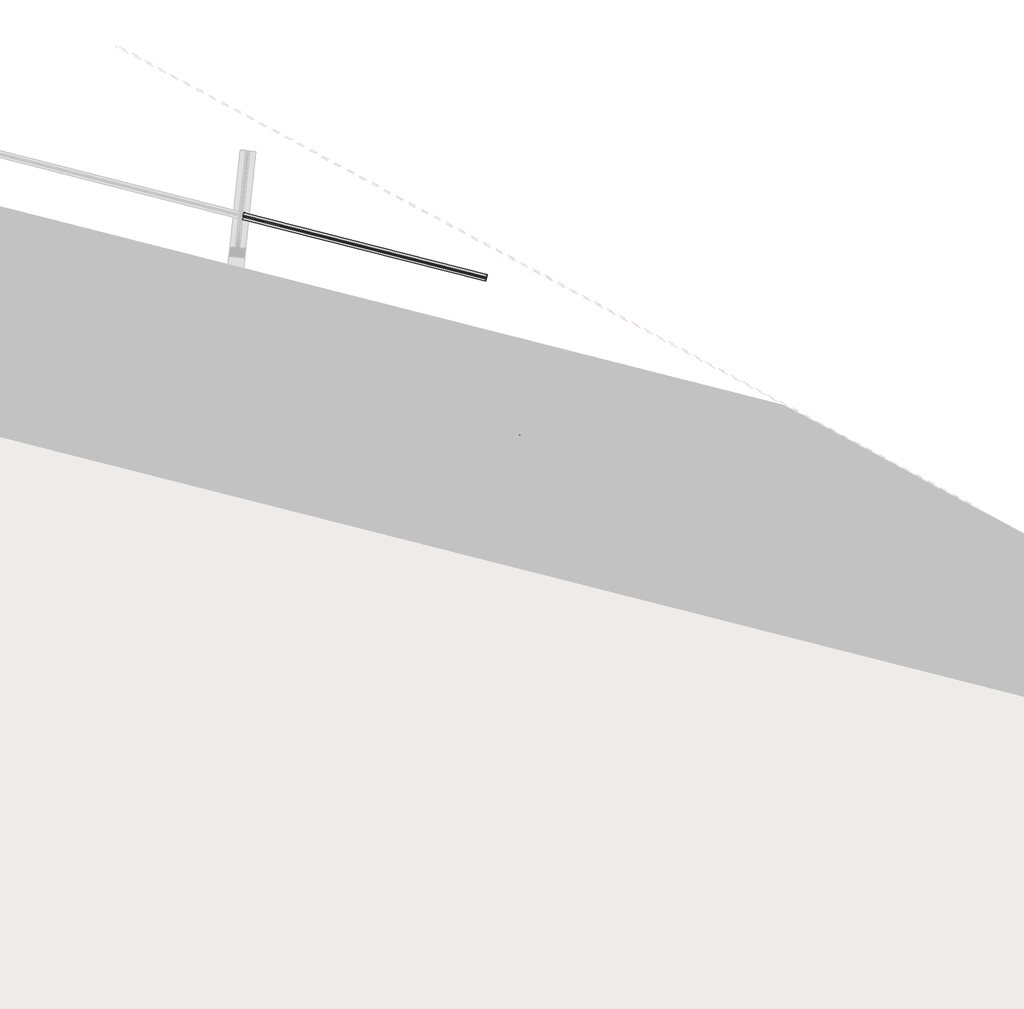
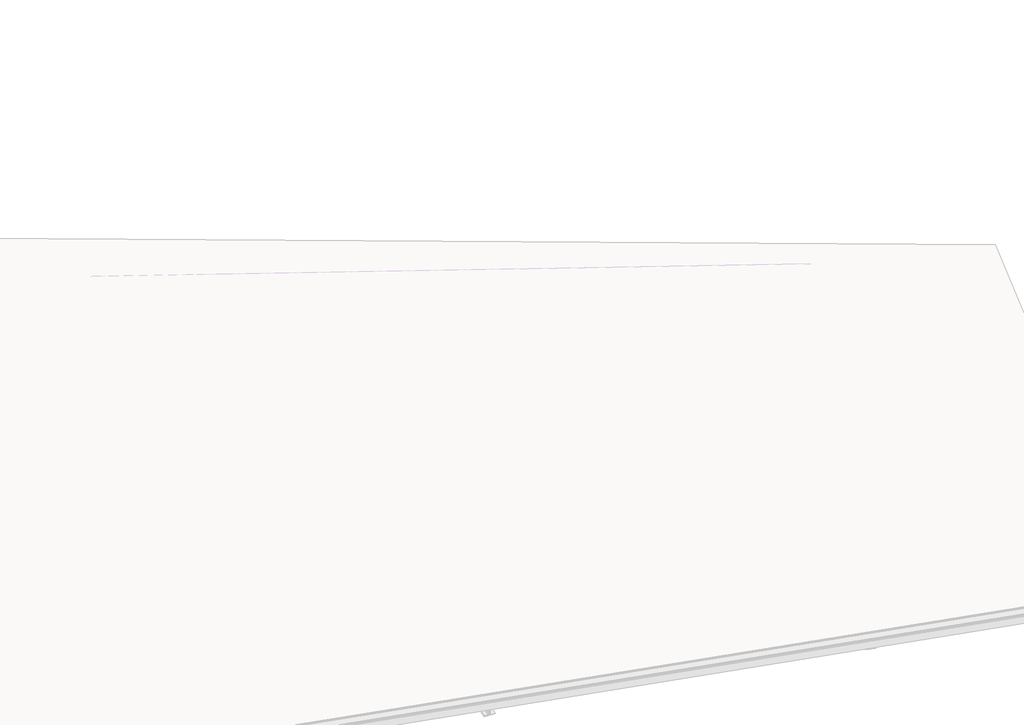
# One storey, part 9 of 10: 5 beams.
"""IFC4 building model written with IfcOpenShell, lengths in millimetres."""

from ifc_helpers import new_model, si_unit, frame, origin, place, context, project, spatial, polyline, circle_curve, ellipse_curve, element, save
from ifc_brep_helpers import plane_surface, cylinder_surface, revolved_surface, advanced_brep

model = new_model("IFC4")

# Units and contexts
model_context = context("Model", 3, world=origin())
ifc_project = project(units=[si_unit("LENGTHUNIT", "METRE", prefix="MILLI")], contexts=[model_context])

# Site, building, storey
site = spatial("IfcSite", under=ifc_project)
building = spatial("IfcBuilding", under=site)
storey = spatial("IfcBuildingStorey", under=building, Name="2 Toiture batiment", Elevation=872910.0)

# Beams
placement = place(None, origin())
element("IfcBeam", 1, ObjectType="IPE : IPE160", at=placement, inside=storey, context=model_context, shape_type="AdvancedBrep", body=[
    advanced_brep(
    [(43918.7678578, 6493.4036673, 874039.6959392), (43911.5700363, 6465.0220399, 874036.1008605), (43909.0508575, 6455.3137086, 874043.9368059), (43904.4824943, 6440.4803553, 874170.1863275), (43906.3552066, 6448.0896271, 874180.2158803), (43913.5530281, 6476.4712546, 874183.8109591), (43913.2872585, 6475.6083079, 874191.1556639), (43893.2797548, 6396.7170046, 874181.1625637), (43893.5455243, 6397.5799512, 874173.8178588), (43900.7433458, 6425.9615786, 874177.4129376), (43903.2625246, 6435.6699099, 874169.5769921), (43907.8308878, 6450.5032633, 874043.3274706), (43905.9581755, 6442.8939914, 874033.2979177), (43898.760354, 6414.512364, 874029.702839), (43899.0261236, 6415.3753107, 874022.3581341), (43919.0336273, 6494.266614, 874032.3512343), (40987.6092728, 7239.1074033, 874021.2458892), (40984.5164787, 7209.6814331, 874017.6766494), (40983.4570593, 7199.6017305, 874025.5217833), (40982.0741252, 7186.443991, 874132.1653926), (40983.0408762, 7186.0752408, 874133.1409565), (41070.5209819, 7164.0800881, 874131.636691), (41070.2524224, 7161.5249156, 874152.3463898), (41071.0801316, 7169.4000423, 874162.3693649), (41074.1729257, 7198.8260125, 874165.9386047), (41074.077667, 7197.9196868, 874173.2843829), (41065.4807479, 7116.1254647, 874163.3631061), (41065.5760065, 7117.0317903, 874156.0173279), (41068.6688006, 7146.4577604, 874159.5865678), (41069.72822, 7156.537463, 874151.7414339), (41069.9966213, 7159.0911301, 874131.043937), (40982.5165156, 7181.0862828, 874132.5482024), (40981.5497645, 7181.455033, 874131.5726385), (40982.9328569, 7194.614278, 874024.9168274), (40982.1051477, 7186.7391512, 874014.8938522), (40979.0123536, 7157.3131811, 874011.3246124), (40979.1076123, 7158.2195067, 874003.9788343), (40987.7045315, 7240.0137289, 874013.9001111)],
    [
        (0, 1),
        (1, 2, circle_curve(frame((43911.2468031, 6463.9725102, 874045.0336096), z_axis=(-0.9691114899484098, 0.24654758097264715, -0.006100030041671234), x_axis=(-0.24399394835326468, -0.9620890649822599, -0.12186707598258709)), 9.0)),
        (2, 3),
        (3, 4, circle_curve(frame((43906.6784399, 6449.1391569, 874171.2831311), z_axis=(-0.9691114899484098, 0.24654758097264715, -0.006100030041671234), x_axis=(-0.24399394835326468, -0.9620890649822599, -0.12186707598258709)), 9.0)),
        (4, 5),
        (5, 6),
        (6, 7),
        (7, 8),
        (8, 9),
        (9, 10, circle_curve(frame((43901.066579, 6427.0111084, 874168.4801884), z_axis=(-0.9691114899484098, 0.24654758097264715, -0.006100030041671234), x_axis=(-0.24399394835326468, -0.9620890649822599, -0.12186707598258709)), 9.0)),
        (10, 11),
        (11, 12, circle_curve(frame((43905.6349422, 6441.8444617, 874042.2306669), z_axis=(-0.9691114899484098, 0.24654758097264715, -0.006100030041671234), x_axis=(-0.24399394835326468, -0.9620890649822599, -0.12186707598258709)), 9.0)),
        (12, 13),
        (13, 14),
        (14, 15),
        (15, 0),
        (0, 16),
        (16, 17),
        (17, 1),
        (17, 18, ellipse_curve(frame((40984.4006236, 7208.5791452, 874026.6107039), z_axis=(-0.9945218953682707, 0.10452846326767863, 0.0), x_axis=(0.10443466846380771, 0.9936294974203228, -0.04235353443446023)), 9.0948241, 9.0)),
        (18, 2),
        (18, 19),
        (19, 20, ellipse_curve(frame((40983.0537456, 7186.1976847, 874132.1485475), z_axis=(0.24399394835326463, 0.9620890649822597, 0.12186707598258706), x_axis=(0.9683550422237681, -0.24850693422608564, 0.023082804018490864)), 1.0102676, 1.0)),
        (20, 21),
        (21, 22),
        (22, 3),
        (22, 23, ellipse_curve(frame((41071.1959867, 7170.5023302, 874153.4353104), z_axis=(-0.9945218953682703, 0.10452846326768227, 0.0), x_axis=(0.10443466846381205, 0.9936294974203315, -0.042353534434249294)), 9.0948241, 9.0)),
        (23, 4),
        (23, 24),
        (24, 5),
        (24, 25),
        (25, 6),
        (25, 26),
        (26, 7),
        (26, 27),
        (27, 8),
        (27, 28),
        (28, 9),
        (28, 29, ellipse_curve(frame((41068.7846557, 7147.5600484, 874150.6525133), z_axis=(-0.9945218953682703, 0.10452846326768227, 0.0), x_axis=(0.10443466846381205, 0.9936294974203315, -0.042353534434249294)), 9.0948241, 9.0)),
        (29, 10),
        (29, 30),
        (30, 31),
        (31, 32, ellipse_curve(frame((40982.529385, 7181.2087267, 874131.5557934), z_axis=(-0.24399394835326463, -0.9620890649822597, -0.12186707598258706), x_axis=(0.9683550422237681, -0.24850693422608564, 0.023082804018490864)), 1.0102676, 1.0)),
        (32, 33),
        (33, 11),
        (33, 34, ellipse_curve(frame((40981.9892926, 7185.6368633, 874023.8279067), z_axis=(-0.9945218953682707, 0.10452846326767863, 0.0), x_axis=(0.10443466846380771, 0.9936294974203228, -0.04235353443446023)), 9.0948241, 9.0)),
        (34, 12),
        (34, 35),
        (35, 13),
        (35, 36),
        (36, 14),
        (36, 37),
        (37, 15),
        (37, 16),
        (21, 30),
        (20, 31),
        (19, 32),
    ],
    [
        plane_surface(frame((43906.1566911, 6445.4918093, 874106.756899), z_axis=(0.9691114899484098, -0.24654758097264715, 0.006100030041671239), x_axis=(-0.035914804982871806, -0.11661441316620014, 0.9925276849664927))),
        plane_surface(frame((43918.7678578, 6493.4036673, 874039.6959392), z_axis=(-0.0359148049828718, -0.11661441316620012, 0.9925276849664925), x_axis=(-0.9691114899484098, 0.24654758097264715, -0.006100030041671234))),
        revolved_surface(polyline([(40980.9352433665, 7200.243295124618, 874025.5059097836), (43909.05085756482, 6455.31370861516, 874043.9368059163)]), (43911.2468031, 6463.9725102, 874045.0336096), (-0.96911148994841, 0.2465475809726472, -0.006100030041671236)),
        plane_surface(frame((43909.0508575, 6455.3137086, 874043.9368059), z_axis=(0.24399394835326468, 0.9620890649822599, 0.12186707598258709), x_axis=(-0.9691114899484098, 0.24654758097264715, -0.006100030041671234))),
        revolved_surface(polyline([(41067.730606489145, 7162.166480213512, 874152.3305162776), (43904.48249436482, 6440.48035531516, 874170.1863274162)]), (43906.6784399, 6449.1391569, 874171.2831311), (-0.96911148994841, 0.2465475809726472, -0.006100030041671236)),
        plane_surface(frame((43906.3552066, 6448.0896271, 874180.2158803), z_axis=(0.0359148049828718, 0.11661441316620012, -0.9925276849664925), x_axis=(-0.9691114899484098, 0.24654758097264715, -0.006100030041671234))),
        plane_surface(frame((43913.5530281, 6476.4712546, 874183.8109591), z_axis=(0.24399394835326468, 0.9620890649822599, 0.12186707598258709), x_axis=(-0.9691114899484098, 0.24654758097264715, -0.006100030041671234))),
        plane_surface(frame((43913.2872585, 6475.6083079, 874191.1556639), z_axis=(-0.0359148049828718, -0.11661441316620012, 0.9925276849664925), x_axis=(-0.9691114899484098, 0.24654758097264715, -0.006100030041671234))),
        plane_surface(frame((43893.2797548, 6396.7170046, 874181.1625637), z_axis=(-0.24399394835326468, -0.9620890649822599, -0.12186707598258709), x_axis=(-0.9691114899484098, 0.24654758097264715, -0.006100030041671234))),
        plane_surface(frame((43893.5455243, 6397.5799512, 874173.8178588), z_axis=(0.0359148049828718, 0.11661441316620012, -0.9925276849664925), x_axis=(-0.9691114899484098, 0.24654758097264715, -0.006100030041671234))),
        revolved_surface(polyline([(41065.31927547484, 7139.224198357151, 874149.5477191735), (43898.87063354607, 6418.35230679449, 874167.3833847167)]), (43901.066579, 6427.0111084, 874168.4801884), (-0.96911148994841, 0.2465475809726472, -0.006100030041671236)),
        plane_surface(frame((43903.2625246, 6435.6699099, 874169.5769921), z_axis=(-0.24399394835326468, -0.9620890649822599, -0.12186707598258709), x_axis=(-0.9691114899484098, 0.24654758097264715, -0.006100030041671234))),
        revolved_surface(polyline([(40978.52391237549, 7177.301013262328, 874022.7231126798), (43903.43899672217, 6433.185660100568, 874041.1338632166)]), (43905.6349422, 6441.8444617, 874042.2306669), (-0.96911148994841, 0.2465475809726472, -0.006100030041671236)),
        plane_surface(frame((43905.9581755, 6442.8939914, 874033.2979177), z_axis=(-0.0359148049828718, -0.11661441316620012, 0.9925276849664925), x_axis=(-0.9691114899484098, 0.24654758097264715, -0.006100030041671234))),
        plane_surface(frame((43898.760354, 6414.512364, 874029.702839), z_axis=(-0.24399394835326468, -0.9620890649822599, -0.12186707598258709), x_axis=(-0.9691114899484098, 0.24654758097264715, -0.006100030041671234))),
        plane_surface(frame((43899.0261236, 6415.3753107, 874022.3581341), z_axis=(0.0359148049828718, 0.11661441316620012, -0.9925276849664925), x_axis=(-0.9691114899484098, 0.24654758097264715, -0.006100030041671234))),
        plane_surface(frame((43919.0336273, 6494.266614, 874032.3512343), z_axis=(0.24399394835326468, 0.9620890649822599, 0.12186707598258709), x_axis=(-0.9691114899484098, 0.24654758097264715, -0.006100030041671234))),
        plane_surface(frame((41151.8197628, 7937.5863197, 874278.5192899), z_axis=(-0.9945218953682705, 0.1045284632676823, 0.0), x_axis=(-0.10380628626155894, -0.9876508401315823, -0.11734595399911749))),
        plane_surface(frame((41152.489486, 7943.9583101, 874224.296516), z_axis=(-0.012265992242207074, -0.11670312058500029, 0.9930910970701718), x_axis=(-0.10380628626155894, -0.9876508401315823, -0.11734595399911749))),
        cylinder_surface(frame((40481.918996, 2418.2190365, 873565.6497603), z_axis=(-0.10380628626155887, -0.9876508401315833, -0.11734595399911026), x_axis=(-0.012265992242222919, -0.11670312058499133, 0.9930910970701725)), 1.0),
        plane_surface(frame((41062.6964248, 7953.5139334, 874223.3034249), z_axis=(-0.994521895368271, 0.10452846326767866, 0.0), x_axis=(-0.10380628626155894, -0.9876508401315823, -0.11734595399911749))),
    ],
    [
        (0, [[1, 2, 3, 4, 5, 6, 7, 8, 9, 10, 11, 12, 13, 14, 15, 16]]),
        (1, [[-1, 17, 18, 19]]),
        (2, [[-2, -19, 20, 21]]),
        (3, [[-3, -21, 22, 23, 24, 25, 26]]),
        (4, [[-4, -26, 27, 28]]),
        (5, [[-5, -28, 29, 30]]),
        (6, [[-6, -30, 31, 32]]),
        (7, [[-7, -32, 33, 34]]),
        (8, [[-8, -34, 35, 36]]),
        (9, [[-9, -36, 37, 38]]),
        (10, [[-10, -38, 39, 40]]),
        (11, [[-11, -40, 41, 42, 43, 44, 45]]),
        (12, [[-12, -45, 46, 47]]),
        (13, [[-13, -47, 48, 49]]),
        (14, [[-14, -49, 50, 51]]),
        (15, [[-15, -51, 52, 53]]),
        (16, [[-16, -53, 54, -17]]),
        (17, [[55, -41, -39, -37, -35, -33, -31, -29, -27, -25]]),
        (18, [[-55, -24, 56, -42]]),
        (19, [[-56, -23, 57, -43]]),
        (20, [[-57, -22, -20, -18, -54, -52, -50, -48, -46, -44]]),
    ],
),
])
element("IfcBeam", 2, ObjectType="IPE : IPE160", at=placement, inside=storey, context=model_context, shape_type="AdvancedBrep", body=[
    advanced_brep(
    [(43667.3444822, 1166.2324166, 873399.0408142), (43674.568198, 1194.607456, 873402.6359598), (43676.5013583, 1202.2013494, 873412.6656993), (43672.6756744, 1187.1790546, 873538.9175698), (43670.2011437, 1177.4593647, 873546.753661), (43662.977428, 1149.0843253, 873543.1585154), (43662.7548646, 1148.2103868, 873550.5033569), (43682.8343457, 1227.0833775, 873560.4966431), (43683.0569091, 1227.9573161, 873553.1518016), (43675.8331933, 1199.5822767, 873549.5566559), (43673.900033, 1191.9883833, 873539.5269165), (43677.7257169, 1207.0106781, 873413.275046), (43680.2002476, 1216.730368, 873405.4389547), (43687.4239633, 1245.1054074, 873409.0341003), (43687.6465267, 1245.9793459, 873401.6892588), (43667.5670456, 1167.1063551, 873391.6959727), (47370.2316104, 223.5468485, 873399.0786368), (47377.4553606, 251.9218791, 873402.6737824), (47379.3886171, 259.515748, 873412.7035219), (47376.0540815, 246.4176277, 873522.7817933), (47297.5578579, 266.401193, 873522.7817815), (47297.0679446, 264.4768041, 873538.9545906), (47294.5934843, 254.7570775, 873546.7906796), (47287.3697389, 226.3820645, 873543.1955362), (47287.147246, 225.508108, 873550.5403777), (47307.2268229, 304.3810744, 873560.5336639), (47307.4493158, 305.2550309, 873553.1888224), (47300.2255656, 276.8800003, 873549.5936767), (47298.2923091, 269.2861313, 873539.5639373), (47298.7825088, 271.2116453, 873523.3816723), (47377.2787324, 251.2280801, 873523.381684), (47380.6129816, 264.3250752, 873413.3128686), (47383.0874414, 274.0448029, 873405.4767796), (47390.3111873, 302.4198148, 873409.0719229), (47390.5336802, 303.2937713, 873401.7270814), (47370.4541033, 224.420805, 873391.7337952)],
    [
        (0, 1),
        (1, 2, circle_curve(frame((43674.2975128, 1193.5445577, 873411.5688752), z_axis=(0.9690888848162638, -0.2467118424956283, 9.898612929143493e-06), x_axis=(0.24487172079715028, 0.9618657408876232, 0.12186934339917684)), 9.0)),
        (2, 3),
        (3, 4, circle_curve(frame((43670.4718289, 1178.5222629, 873537.8207457), z_axis=(0.9690888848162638, -0.2467118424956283, 9.898612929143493e-06), x_axis=(0.24487172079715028, 0.9618657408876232, 0.12186934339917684)), 9.0)),
        (4, 5),
        (5, 6),
        (6, 7),
        (7, 8),
        (8, 9),
        (9, 10, circle_curve(frame((43676.1038785, 1200.6451749, 873540.6237406), z_axis=(0.9690888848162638, -0.2467118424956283, 9.898612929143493e-06), x_axis=(0.24487172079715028, 0.9618657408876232, 0.12186934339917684)), 9.0)),
        (10, 11),
        (11, 12, circle_curve(frame((43679.9295624, 1215.6674698, 873414.3718701), z_axis=(0.9690888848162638, -0.2467118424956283, 9.898612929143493e-06), x_axis=(0.24487172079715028, 0.9618657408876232, 0.12186934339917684)), 9.0)),
        (12, 13),
        (13, 14),
        (14, 15),
        (15, 0),
        (0, 16),
        (16, 17),
        (17, 1),
        (17, 18, ellipse_curve(frame((47377.1847611, 250.858959, 873411.6066978), z_axis=(0.9690888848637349, -0.24671184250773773, 0.0), x_axis=(5.832291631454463e-10, 2.2936608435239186e-09, 1.0)), 9.0, 9.0)),
        (18, 2),
        (18, 19),
        (19, 20),
        (20, 21),
        (21, 3),
        (21, 22, ellipse_curve(frame((47294.8640886, 255.8200151, 873537.8577665), z_axis=(0.9690888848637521, -0.24671184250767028, 0.0), x_axis=(-1.1552423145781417e-09, -4.520025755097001e-09, 1.0)), 9.0, 9.0)),
        (22, 4),
        (22, 23),
        (23, 5),
        (23, 24),
        (24, 6),
        (24, 25),
        (25, 7),
        (25, 26),
        (26, 8),
        (26, 27),
        (27, 9),
        (27, 28, ellipse_curve(frame((47300.4961651, 277.9429203, 873540.6607614), z_axis=(0.9690888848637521, -0.24671184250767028, 0.0), x_axis=(-1.1552423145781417e-09, -4.520025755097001e-09, 1.0)), 9.0, 9.0)),
        (28, 10),
        (28, 29),
        (29, 30),
        (30, 31),
        (31, 11),
        (31, 32, ellipse_curve(frame((47382.8168376, 272.9818642, 873414.4096927), z_axis=(0.9690888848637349, -0.24671184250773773, 0.0), x_axis=(5.832291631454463e-10, 2.2936608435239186e-09, 1.0)), 9.0, 9.0)),
        (32, 12),
        (32, 33),
        (33, 13),
        (33, 34),
        (34, 14),
        (34, 35),
        (35, 15),
        (35, 16),
        (30, 19),
        (29, 20),
    ],
    [
        plane_surface(frame((43675.2006957, 1197.0948663, 873476.0963079), z_axis=(-0.9690888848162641, 0.24671184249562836, -9.898612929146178e-06), x_axis=(-0.030076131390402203, -0.11809980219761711, 0.9925461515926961))),
        plane_surface(frame((43667.3444822, 1166.2324166, 873399.0408142), z_axis=(-0.030076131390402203, -0.11809980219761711, 0.9925461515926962), x_axis=(0.9690888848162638, -0.2467118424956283, 9.898612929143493e-06))),
        revolved_surface(polyline([(47379.38869291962, 259.515728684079, 873412.7035218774), (43676.50135828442, 1202.2013493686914, 873412.6656992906)]), (43674.2975128, 1193.5445577, 873411.5688752), (0.969088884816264, -0.24671184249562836, 9.898612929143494e-06)),
        plane_surface(frame((43676.5013583, 1202.2013494, 873412.6656993), z_axis=(-0.24487172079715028, -0.9618657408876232, -0.12186934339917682), x_axis=(0.9690888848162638, -0.2467118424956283, 9.898612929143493e-06))),
        revolved_surface(polyline([(47297.06802042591, 264.476784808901, 873538.9545906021), (43672.675674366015, 1187.1790545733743, 873538.9175697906)]), (43670.4718289, 1178.5222629, 873537.8207457), (0.969088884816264, -0.24671184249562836, 9.898612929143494e-06)),
        plane_surface(frame((43670.2011437, 1177.4593647, 873546.753661), z_axis=(0.030076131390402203, 0.11809980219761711, -0.9925461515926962), x_axis=(0.9690888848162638, -0.2467118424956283, 9.898612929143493e-06))),
        plane_surface(frame((43662.977428, 1149.0843253, 873543.1585154), z_axis=(-0.24487172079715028, -0.9618657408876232, -0.12186934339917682), x_axis=(0.9690888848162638, -0.2467118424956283, 9.898612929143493e-06))),
        plane_surface(frame((43662.7548646, 1148.2103868, 873550.5033569), z_axis=(-0.030076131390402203, -0.11809980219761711, 0.9925461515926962), x_axis=(0.9690888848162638, -0.2467118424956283, 9.898612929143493e-06))),
        plane_surface(frame((43682.8343457, 1227.0833775, 873560.4966431), z_axis=(0.24487172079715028, 0.9618657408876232, 0.12186934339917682), x_axis=(0.9690888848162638, -0.2467118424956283, 9.898612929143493e-06))),
        plane_surface(frame((43683.0569091, 1227.9573161, 873553.1518016), z_axis=(0.030076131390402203, 0.11809980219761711, -0.9925461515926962), x_axis=(0.9690888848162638, -0.2467118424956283, 9.898612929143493e-06))),
        revolved_surface(polyline([(47302.70009691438, 286.5996899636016, 873541.7575855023), (43678.30772395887, 1209.3019665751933, 873541.7205646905)]), (43676.1038785, 1200.6451749, 873540.6237406), (0.969088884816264, -0.24671184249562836, 9.898612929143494e-06)),
        plane_surface(frame((43673.900033, 1191.9883833, 873539.5269165), z_axis=(0.24487172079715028, 0.9618657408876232, 0.12186934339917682), x_axis=(0.9690888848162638, -0.2467118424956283, 9.898612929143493e-06))),
        revolved_surface(polyline([(47385.020769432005, 281.63863393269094, 873415.5065167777), (43682.13340788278, 1224.3242614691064, 873415.4686941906)]), (43679.9295624, 1215.6674698, 873414.3718701), (0.969088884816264, -0.24671184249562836, 9.898612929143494e-06)),
        plane_surface(frame((43680.2002476, 1216.730368, 873405.4389547), z_axis=(-0.030076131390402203, -0.11809980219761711, 0.9925461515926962), x_axis=(0.9690888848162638, -0.2467118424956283, 9.898612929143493e-06))),
        plane_surface(frame((43687.4239633, 1245.1054074, 873409.0341003), z_axis=(0.24487172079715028, 0.9618657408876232, 0.12186934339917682), x_axis=(0.9690888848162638, -0.2467118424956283, 9.898612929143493e-06))),
        plane_surface(frame((43687.6465267, 1245.9793459, 873401.6892588), z_axis=(0.030076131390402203, 0.11809980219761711, -0.9925461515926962), x_axis=(0.9690888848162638, -0.2467118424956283, 9.898612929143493e-06))),
        plane_surface(frame((43667.5670456, 1167.1063551, 873391.6959727), z_axis=(-0.24487172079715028, -0.9618657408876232, -0.12186934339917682), x_axis=(0.9690888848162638, -0.2467118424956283, 9.898612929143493e-06))),
        plane_surface(frame((48353.9170133, 4087.4821201, 873705.0408267), z_axis=(0.9690888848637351, -0.24671184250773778, 0.0), x_axis=(-0.24492973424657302, -0.9620887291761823, -0.11997792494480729))),
        plane_surface(frame((48345.1968607, 4053.2291921, 873997.5128012), z_axis=(-0.02959997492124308, -0.11626927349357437, 0.992776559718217), x_axis=(-0.24492973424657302, -0.9620887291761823, -0.11997792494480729))),
        plane_surface(frame((48266.700661, 4073.2128513, 873997.5128012), z_axis=(0.9690888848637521, -0.24671184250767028, 0.0), x_axis=(-0.24492973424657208, -0.9620887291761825, -0.11997792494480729))),
    ],
    [
        (0, [[1, 2, 3, 4, 5, 6, 7, 8, 9, 10, 11, 12, 13, 14, 15, 16]]),
        (1, [[-1, 17, 18, 19]]),
        (2, [[-2, -19, 20, 21]]),
        (3, [[-3, -21, 22, 23, 24, 25]]),
        (4, [[-4, -25, 26, 27]]),
        (5, [[-5, -27, 28, 29]]),
        (6, [[-6, -29, 30, 31]]),
        (7, [[-7, -31, 32, 33]]),
        (8, [[-8, -33, 34, 35]]),
        (9, [[-9, -35, 36, 37]]),
        (10, [[-10, -37, 38, 39]]),
        (11, [[-11, -39, 40, 41, 42, 43]]),
        (12, [[-12, -43, 44, 45]]),
        (13, [[-13, -45, 46, 47]]),
        (14, [[-14, -47, 48, 49]]),
        (15, [[-15, -49, 50, 51]]),
        (16, [[-16, -51, 52, -17]]),
        (17, [[53, -22, -20, -18, -52, -50, -48, -46, -44, -42]]),
        (18, [[-53, -41, 54, -23]]),
        (19, [[-54, -40, -38, -36, -34, -32, -30, -28, -26, -24]]),
    ],
),
])
element("IfcBeam", 3, ObjectType="IPE : IPE160", at=placement, inside=storey, context=model_context, shape_type="AdvancedBrep", body=[
    advanced_brep(
    [(44091.7898285, 2833.039037, 873605.6408392), (44099.0123995, 2861.4143678, 873609.2359846), (44100.9423659, 2869.0090743, 873619.2657235), (44097.0764783, 2853.9970146, 873745.5175867), (44094.5994523, 2844.27796, 873753.3536775), (44087.3768814, 2815.9026292, 873749.7585321), (44087.1519791, 2815.0292861, 873757.1033732), (44107.228278, 2893.903087, 873767.0966588), (44107.4531802, 2894.7764301, 873759.7518177), (44100.2306093, 2866.4010992, 873756.1566723), (44098.3006429, 2858.8063927, 873746.1269334), (44102.1665305, 2873.8184524, 873619.8750701), (44104.6435565, 2883.5375071, 873612.0389793), (44111.8661274, 2911.9128379, 873615.6341247), (44112.0910297, 2912.786181, 873608.2892836), (44092.0147308, 2833.9123801, 873598.2959981), (47794.5758468, 1890.3792095, 873606.9341971), (47801.7995971, 1918.7542401, 873610.529343), (47803.7328536, 1926.3481091, 873620.559083), (47800.3980825, 1913.2490639, 873730.6451336), (47721.9010645, 1933.2295083, 873730.6447327), (47721.4121811, 1931.3091651, 873746.7835425), (47718.9377256, 1921.5894561, 873754.6196343), (47711.7139754, 1893.2144255, 873751.0244884), (47711.4914824, 1892.3404691, 873758.3693304), (47731.5710594, 1971.2134354, 873768.3626171), (47731.7935523, 1972.0873919, 873761.0177752), (47724.5698021, 1943.7123613, 873757.4226293), (47722.6365456, 1936.1184924, 873747.3928893), (47723.1257153, 1938.0399607, 873731.2446234), (47801.6227334, 1918.0595162, 873731.2450243), (47804.9572181, 1931.1574363, 873621.1684298), (47807.4316736, 1940.8771453, 873613.332338), (47814.6554238, 1969.2521759, 873616.9274839), (47814.8779167, 1970.1261323, 873609.5826419), (47794.7983398, 1891.253166, 873599.5893552)],
    [
        (0, 1),
        (1, 2, circle_curve(frame((44098.7388697, 2860.3521937, 873618.1688994), z_axis=(0.9690888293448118, -0.2467118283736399, 0.0003384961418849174), x_axis=(0.24483291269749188, 0.9618756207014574, 0.12186933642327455)), 9.0)),
        (2, 3),
        (3, 4, circle_curve(frame((44094.8729821, 2845.340134, 873744.4207627), z_axis=(0.9690888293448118, -0.2467118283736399, 0.0003384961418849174), x_axis=(0.24483291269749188, 0.9618756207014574, 0.12186933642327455)), 9.0)),
        (4, 5),
        (5, 6),
        (6, 7),
        (7, 8),
        (8, 9),
        (9, 10, circle_curve(frame((44100.5041391, 2867.4632733, 873747.2237574), z_axis=(0.9690888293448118, -0.2467118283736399, 0.0003384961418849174), x_axis=(0.24483291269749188, 0.9618756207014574, 0.12186933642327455)), 9.0)),
        (10, 11),
        (11, 12, circle_curve(frame((44104.3700267, 2882.475333, 873620.9718942), z_axis=(0.9690888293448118, -0.2467118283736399, 0.0003384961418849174), x_axis=(0.24483291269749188, 0.9618756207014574, 0.12186933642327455)), 9.0)),
        (12, 13),
        (13, 14),
        (14, 15),
        (15, 0),
        (0, 16),
        (16, 17),
        (17, 1),
        (17, 18, ellipse_curve(frame((47801.5289976, 1917.6913201, 873619.4622589), z_axis=(0.9690888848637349, -0.24671184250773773, 0.0), x_axis=(1.574337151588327e-11, 6.092356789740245e-11, 1.0)), 9.0000005, 9.0)),
        (18, 2),
        (18, 19),
        (19, 20),
        (20, 21),
        (21, 3),
        (21, 22, ellipse_curve(frame((47719.2083251, 1922.6523761, 873745.6867184), z_axis=(0.9690888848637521, -0.24671184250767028, 0.0), x_axis=(-3.476661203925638e-11, -1.3841047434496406e-10, 1.0)), 9.0000005, 9.0)),
        (22, 4),
        (22, 23),
        (23, 5),
        (23, 24),
        (24, 6),
        (24, 25),
        (25, 7),
        (25, 26),
        (26, 8),
        (26, 27),
        (27, 9),
        (27, 28, ellipse_curve(frame((47724.8404016, 1944.7752813, 873748.4897134), z_axis=(0.9690888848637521, -0.24671184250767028, 0.0), x_axis=(-3.476661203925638e-11, -1.3841047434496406e-10, 1.0)), 9.0000005, 9.0)),
        (28, 10),
        (28, 29),
        (29, 30),
        (30, 31),
        (31, 11),
        (31, 32, ellipse_curve(frame((47807.1610741, 1939.8142253, 873622.2652539), z_axis=(0.9690888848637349, -0.24671184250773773, 0.0), x_axis=(1.574337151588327e-11, 6.092356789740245e-11, 1.0)), 9.0000005, 9.0)),
        (32, 12),
        (32, 33),
        (33, 13),
        (33, 34),
        (34, 14),
        (34, 35),
        (35, 15),
        (35, 16),
        (30, 19),
        (29, 20),
    ],
    [
        plane_surface(frame((44099.6215044, 2863.9077335, 873682.6963284), z_axis=(-0.9690888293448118, 0.24671182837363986, -0.0003384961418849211), x_axis=(-0.030392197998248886, -0.11801933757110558, 0.9925460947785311))),
        plane_surface(frame((44091.7898285, 2833.039037, 873605.6408392), z_axis=(-0.03039219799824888, -0.11801933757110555, 0.9925460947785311), x_axis=(0.9690888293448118, -0.2467118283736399, 0.0003384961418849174))),
        revolved_surface(polyline([(47803.7354460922, 1926.3474490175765, 873620.5590838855), (44100.94236589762, 2869.0090742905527, 873619.2657234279)]), (44098.7388697, 2860.3521937, 873618.1688994), (0.969088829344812, -0.24671182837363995, 0.0003384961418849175)),
        plane_surface(frame((44100.9423659, 2869.0090743, 873619.2657235), z_axis=(-0.24483291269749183, -0.961875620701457, -0.12186933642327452), x_axis=(0.9690888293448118, -0.2467118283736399, 0.0003384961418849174))),
        revolved_surface(polyline([(47721.414773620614, 1931.308505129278, 873746.7835434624), (44097.07647828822, 2853.9970145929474, 873745.5175867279)]), (44094.8729821, 2845.340134, 873744.4207627), (0.969088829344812, -0.24671182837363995, 0.0003384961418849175)),
        plane_surface(frame((44094.5994523, 2844.27796, 873753.3536775), z_axis=(0.03039219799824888, 0.11801933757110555, -0.9925460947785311), x_axis=(0.9690888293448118, -0.2467118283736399, 0.0003384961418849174))),
        plane_surface(frame((44087.3768814, 2815.9026292, 873749.7585321), z_axis=(-0.24483291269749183, -0.961875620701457, -0.12186933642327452), x_axis=(0.9690888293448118, -0.2467118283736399, 0.0003384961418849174))),
        plane_surface(frame((44087.1519791, 2815.0292861, 873757.1033732), z_axis=(-0.03039219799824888, -0.11801933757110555, 0.9925460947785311), x_axis=(0.9690888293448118, -0.2467118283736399, 0.0003384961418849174))),
        plane_surface(frame((44107.228278, 2893.903087, 873767.0966588), z_axis=(0.24483291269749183, 0.961875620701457, 0.12186933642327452), x_axis=(0.9690888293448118, -0.2467118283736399, 0.0003384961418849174))),
        plane_surface(frame((44107.4531802, 2894.7764301, 873759.7518177), z_axis=(0.03039219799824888, 0.11801933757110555, -0.9925460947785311), x_axis=(0.9690888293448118, -0.2467118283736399, 0.0003384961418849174))),
        revolved_surface(polyline([(47727.04685012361, 1953.431410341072, 873749.5865384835), (44102.70763531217, 2876.1201538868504, 873748.3205814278)]), (44100.5041391, 2867.4632733, 873747.2237574), (0.969088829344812, -0.24671182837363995, 0.0003384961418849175)),
        plane_surface(frame((44098.3006429, 2858.8063927, 873746.1269334), z_axis=(0.24483291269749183, 0.961875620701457, 0.12186933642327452), x_axis=(0.9690888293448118, -0.2467118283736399, 0.0003384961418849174))),
        revolved_surface(polyline([(47809.36752259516, 1948.4703542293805, 873623.3620790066), (44106.57352291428, 2891.132213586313, 873622.0687182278)]), (44104.3700267, 2882.475333, 873620.9718942), (0.969088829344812, -0.24671182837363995, 0.0003384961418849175)),
        plane_surface(frame((44104.6435565, 2883.5375071, 873612.0389793), z_axis=(-0.03039219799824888, -0.11801933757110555, 0.9925460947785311), x_axis=(0.9690888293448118, -0.2467118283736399, 0.0003384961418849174))),
        plane_surface(frame((44111.8661274, 2911.9128379, 873615.6341247), z_axis=(0.24483291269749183, 0.961875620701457, 0.12186933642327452), x_axis=(0.9690888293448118, -0.2467118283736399, 0.0003384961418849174))),
        plane_surface(frame((44112.0910297, 2912.786181, 873608.2892836), z_axis=(0.03039219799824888, 0.11801933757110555, -0.9925460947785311), x_axis=(0.9690888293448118, -0.2467118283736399, 0.0003384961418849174))),
        plane_surface(frame((44092.0147308, 2833.9123801, 873598.2959981), z_axis=(-0.24483291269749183, -0.961875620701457, -0.12186933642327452), x_axis=(0.9690888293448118, -0.2467118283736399, 0.0003384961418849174))),
        plane_surface(frame((48353.9170133, 4087.4821201, 873705.0408267), z_axis=(0.9690888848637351, -0.24671184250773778, 0.0), x_axis=(-0.24492973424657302, -0.9620887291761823, -0.11997792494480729))),
        plane_surface(frame((48345.1968607, 4053.2291921, 873997.5128012), z_axis=(-0.02959997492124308, -0.11626927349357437, 0.992776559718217), x_axis=(-0.24492973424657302, -0.9620887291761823, -0.11997792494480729))),
        plane_surface(frame((48266.700661, 4073.2128513, 873997.5128012), z_axis=(0.9690888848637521, -0.24671184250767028, 0.0), x_axis=(-0.24492973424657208, -0.9620887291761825, -0.11997792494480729))),
    ],
    [
        (0, [[1, 2, 3, 4, 5, 6, 7, 8, 9, 10, 11, 12, 13, 14, 15, 16]]),
        (1, [[-1, 17, 18, 19]]),
        (2, [[-2, -19, 20, 21]]),
        (3, [[-3, -21, 22, 23, 24, 25]]),
        (4, [[-4, -25, 26, 27]]),
        (5, [[-5, -27, 28, 29]]),
        (6, [[-6, -29, 30, 31]]),
        (7, [[-7, -31, 32, 33]]),
        (8, [[-8, -33, 34, 35]]),
        (9, [[-9, -35, 36, 37]]),
        (10, [[-10, -37, 38, 39]]),
        (11, [[-11, -39, 40, 41, 42, 43]]),
        (12, [[-12, -43, 44, 45]]),
        (13, [[-13, -45, 46, 47]]),
        (14, [[-14, -47, 48, 49]]),
        (15, [[-15, -49, 50, 51]]),
        (16, [[-16, -51, 52, -17]]),
        (17, [[53, -22, -20, -18, -52, -50, -48, -46, -44, -42]]),
        (18, [[-53, -41, 54, -23]]),
        (19, [[-54, -40, -38, -36, -34, -32, -30, -28, -26, -24]]),
    ],
),
])
element("IfcBeam", 4, ObjectType="IPE : IPE160", at=placement, inside=storey, context=model_context, shape_type="AdvancedBrep", body=[
    advanced_brep(
    [(43896.8197948, 2884.9347057, 873605.6408142), (43897.0422877, 2885.8086621, 873598.2959727), (43917.1218647, 2964.6816285, 873608.2892588), (43916.8993718, 2963.807672, 873615.6341003), (43909.6756215, 2935.4326414, 873612.0389547), (43907.201166, 2925.7129324, 873619.875046), (43903.3766932, 2910.6903293, 873746.1269165), (43905.3099497, 2918.2841982, 873756.1566559), (43912.5337, 2946.6592288, 873759.7518016), (43912.311207, 2945.7852723, 873767.0966431), (43892.2316301, 2866.912306, 873757.1033569), (43892.454123, 2867.7862624, 873749.7585154), (43899.6778732, 2896.161293, 873753.353661), (43902.1523287, 2905.881002, 873745.5175698), (43905.9768016, 2920.9036052, 873619.2656993), (43904.043545, 2913.3097363, 873609.2359598), (40620.8011902, 3749.1616208, 873609.2359598), (40617.708322, 3719.7349452, 873605.6408142), (40621.6289193, 3757.0369364, 873619.2656993), (40708.422655, 3718.944638, 873745.5175698), (40708.7193138, 3721.7671575, 873722.6444861), (40621.2477883, 3743.8439454, 873724.1584509), (40620.2811352, 3744.213628, 873723.1829977), (40707.3632102, 3708.8646938, 873753.353661), (40704.2703419, 3679.4380182, 873749.7585154), (40704.175081, 3678.5316708, 873757.1033569), (40712.7722063, 3760.3278539, 873767.0966431), (40712.8674672, 3761.2342012, 873759.7518016), (40709.774599, 3731.8075256, 873756.1566559), (40708.94687, 3723.9322101, 873746.1269165), (40622.1531342, 3762.0245085, 873619.875046), (40620.8055644, 3749.2032381, 873723.7758293), (40621.7722175, 3748.8335555, 873724.7512824), (40709.2437429, 3726.7567676, 873723.2373176), (40623.212579, 3772.1044527, 873612.0389547), (40626.3054473, 3801.5311283, 873615.6341003), (40626.4007082, 3802.4374756, 873608.2892588), (40617.803583, 3720.6412926, 873598.2959727)],
    [
        (0, 1),
        (1, 2),
        (2, 3),
        (3, 4),
        (4, 5, circle_curve(frame((43909.405022, 2934.3697214, 873620.9718701), z_axis=(-0.9690888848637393, 0.24671184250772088, 0.0), x_axis=(0.24487288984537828, 0.9618654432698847, 0.12186934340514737)), 9.0)),
        (5, 6),
        (6, 7, circle_curve(frame((43905.5805492, 2919.3471183, 873747.2237406), z_axis=(-0.9690888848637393, 0.24671184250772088, 0.0), x_axis=(0.24487288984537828, 0.9618654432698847, 0.12186934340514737)), 9.0)),
        (7, 8),
        (8, 9),
        (9, 10),
        (10, 11),
        (11, 12),
        (12, 13, circle_curve(frame((43899.9484727, 2897.2242131, 873744.4207457), z_axis=(-0.9690888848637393, 0.24671184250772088, 0.0), x_axis=(0.24487288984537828, 0.9618654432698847, 0.12186934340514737)), 9.0)),
        (13, 14),
        (14, 15, circle_curve(frame((43903.7729456, 2912.2468162, 873618.1688752), z_axis=(-0.9690888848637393, 0.24671184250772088, 0.0), x_axis=(0.24487288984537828, 0.9618654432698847, 0.12186934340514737)), 9.0)),
        (15, 0),
        (15, 16),
        (16, 17),
        (17, 0),
        (14, 18),
        (18, 16, ellipse_curve(frame((40620.6853323, 3748.0593065, 873618.1688752), z_axis=(-0.9945218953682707, 0.10452846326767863, 0.0), x_axis=(-0.10452846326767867, -0.9945218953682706, 0.0)), 9.0948729, 9.0)),
        (13, 19),
        (19, 20),
        (20, 21),
        (21, 22, ellipse_curve(frame((40621.2606596, 3743.9664075, 873723.1660441), z_axis=(-0.24487288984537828, -0.9618654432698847, -0.12186934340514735), x_axis=(0.9681402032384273, -0.24936462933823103, 0.022843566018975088)), 1.0103996, 1.0)),
        (22, 18),
        (12, 23),
        (23, 19, ellipse_curve(frame((40707.4790681, 3709.9670081, 873744.4207457), z_axis=(-0.9945218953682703, 0.10452846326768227, 0.0), x_axis=(-0.10452846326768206, -0.9945218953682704, 0.0)), 9.0948729, 9.0)),
        (11, 24),
        (24, 23),
        (10, 25),
        (25, 24),
        (9, 26),
        (26, 25),
        (8, 27),
        (27, 26),
        (7, 28),
        (28, 27),
        (6, 29),
        (29, 28, ellipse_curve(frame((40709.8904569, 3732.90984, 873747.2237406), z_axis=(-0.9945218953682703, 0.10452846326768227, 0.0), x_axis=(-0.10452846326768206, -0.9945218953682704, 0.0)), 9.0948729, 9.0)),
        (5, 30),
        (30, 31),
        (31, 32, ellipse_curve(frame((40621.7850888, 3748.9560176, 873723.7588756), z_axis=(0.24487288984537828, 0.9618654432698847, 0.12186934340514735), x_axis=(0.9681402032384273, -0.24936462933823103, 0.022843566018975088)), 1.0103996, 1.0)),
        (32, 33),
        (33, 29),
        (4, 34),
        (34, 30, ellipse_curve(frame((40623.0967211, 3771.0021383, 873620.9718701), z_axis=(-0.9945218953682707, 0.10452846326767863, 0.0), x_axis=(-0.10452846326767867, -0.9945218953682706, 0.0)), 9.0948729, 9.0)),
        (3, 35),
        (35, 34),
        (2, 36),
        (36, 35),
        (1, 37),
        (37, 36),
        (17, 37),
        (33, 20),
        (32, 21),
        (31, 22),
    ],
    [
        plane_surface(frame((43904.6767474, 2915.7969672, 873682.6963079), z_axis=(0.9690888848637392, -0.24671184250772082, 0.0), x_axis=(-0.030066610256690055, -0.11810222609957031, 0.992546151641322))),
        plane_surface(frame((40599.7538859, 3724.3058077, 873605.6408142), z_axis=(-0.03006661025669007, -0.11810222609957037, 0.9925461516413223), x_axis=(0.9690888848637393, -0.24671184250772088, 0.0))),
        revolved_surface(polyline([(43905.97680161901, 2920.903605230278, 873619.2656992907), (40621.61945483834, 3757.0393458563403, 873619.2656992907)]), (40606.7070366, 3751.6179183, 873618.1688752), (0.9690888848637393, -0.24671184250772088, 0.0)),
        plane_surface(frame((40608.9108926, 3760.2747072, 873619.2656993), z_axis=(-0.24487288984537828, -0.9618654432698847, -0.12186934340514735), x_axis=(0.9690888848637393, -0.24671184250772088, 0.0))),
        revolved_surface(polyline([(43902.15232871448, 2905.881002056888, 873745.5175697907), (40708.41319063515, 3718.9470474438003, 873745.5175697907)]), (40602.8825638, 3736.5953151, 873744.4207457), (0.9690888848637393, -0.24671184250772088, 0.0)),
        plane_surface(frame((40602.6119643, 3735.5323951, 873753.353661), z_axis=(0.03006661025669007, 0.11810222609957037, -0.9925461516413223), x_axis=(0.9690888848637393, -0.24671184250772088, 0.0))),
        plane_surface(frame((40595.3882141, 3707.1573645, 873749.7585154), z_axis=(-0.24487288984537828, -0.9618654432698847, -0.12186934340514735), x_axis=(0.9690888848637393, -0.24671184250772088, 0.0))),
        plane_surface(frame((40595.1657211, 3706.283408, 873757.1033569), z_axis=(-0.03006661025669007, -0.11810222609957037, 0.9925461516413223), x_axis=(0.9690888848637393, -0.24671184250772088, 0.0))),
        plane_surface(frame((40615.2452981, 3785.1563744, 873767.0966431), z_axis=(0.24487288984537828, 0.9618654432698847, 0.12186934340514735), x_axis=(0.9690888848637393, -0.24671184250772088, 0.0))),
        plane_surface(frame((40615.467791, 3786.0303308, 873759.7518016), z_axis=(0.03006661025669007, 0.11810222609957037, -0.9925461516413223), x_axis=(0.9690888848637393, -0.24671184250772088, 0.0))),
        revolved_surface(polyline([(43907.7844052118, 2928.0039072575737, 873748.3205646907), (40710.82457942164, 3741.8898792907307, 873748.3205646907)]), (40608.5146403, 3758.7182203, 873747.2237406), (0.9690888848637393, -0.24671184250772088, 0.0)),
        plane_surface(frame((40606.3107843, 3750.0614313, 873746.1269165), z_axis=(0.24487288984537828, 0.9618654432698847, 0.12186934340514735), x_axis=(0.9690888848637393, -0.24671184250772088, 0.0))),
        revolved_surface(polyline([(43911.60887804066, 2943.026510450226, 873622.0686941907), (40624.03084364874, 3779.982177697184, 873622.0686941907)]), (40612.3391131, 3773.7408235, 873620.9718701), (0.9690888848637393, -0.24671184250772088, 0.0)),
        plane_surface(frame((40612.6097126, 3774.8037435, 873612.0389547), z_axis=(-0.03006661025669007, -0.11810222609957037, 0.9925461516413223), x_axis=(0.9690888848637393, -0.24671184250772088, 0.0))),
        plane_surface(frame((40619.8334628, 3803.1787741, 873615.6341003), z_axis=(0.24487288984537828, 0.9618654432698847, 0.12186934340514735), x_axis=(0.9690888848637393, -0.24671184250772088, 0.0))),
        plane_surface(frame((40620.0559558, 3804.0527305, 873608.2892588), z_axis=(0.03006661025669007, 0.11810222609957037, -0.9925461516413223), x_axis=(0.9690888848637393, -0.24671184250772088, 0.0))),
        plane_surface(frame((40599.9763788, 3725.1797642, 873598.2959727), z_axis=(-0.24487288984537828, -0.9618654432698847, -0.12186934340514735), x_axis=(0.9690888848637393, -0.24671184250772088, 0.0))),
        plane_surface(frame((41151.8197628, 7937.5863197, 874278.5192899), z_axis=(-0.9945218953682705, 0.1045284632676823, 0.0), x_axis=(-0.10380628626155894, -0.9876508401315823, -0.11734595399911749))),
        plane_surface(frame((41152.489486, 7943.9583101, 874224.296516), z_axis=(-0.012265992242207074, -0.11670312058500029, 0.9930910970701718), x_axis=(-0.10380628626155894, -0.9876508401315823, -0.11734595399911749))),
        cylinder_surface(frame((40481.918996, 2418.2190365, 873565.6497603), z_axis=(-0.10380628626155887, -0.9876508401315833, -0.11734595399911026), x_axis=(-0.012265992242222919, -0.11670312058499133, 0.9930910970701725)), 1.0),
        plane_surface(frame((41062.6964248, 7953.5139334, 874223.3034249), z_axis=(-0.994521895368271, 0.10452846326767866, 0.0), x_axis=(-0.10380628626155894, -0.9876508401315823, -0.11734595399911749))),
    ],
    [
        (0, [[1, 2, 3, 4, 5, 6, 7, 8, 9, 10, 11, 12, 13, 14, 15, 16]]),
        (1, [[-16, 17, 18, 19]]),
        (2, [[-15, 20, 21, -17]]),
        (3, [[-14, 22, 23, 24, 25, 26, -20]]),
        (4, [[-13, 27, 28, -22]]),
        (5, [[-12, 29, 30, -27]]),
        (6, [[-11, 31, 32, -29]]),
        (7, [[-10, 33, 34, -31]]),
        (8, [[-9, 35, 36, -33]]),
        (9, [[-8, 37, 38, -35]]),
        (10, [[-7, 39, 40, -37]]),
        (11, [[-6, 41, 42, 43, 44, 45, -39]]),
        (12, [[-5, 46, 47, -41]]),
        (13, [[-4, 48, 49, -46]]),
        (14, [[-3, 50, 51, -48]]),
        (15, [[-2, 52, 53, -50]]),
        (16, [[-1, -19, 54, -52]]),
        (17, [[55, -23, -28, -30, -32, -34, -36, -38, -40, -45]]),
        (18, [[-55, -44, 56, -24]]),
        (19, [[-56, -43, 57, -25]]),
        (20, [[-57, -42, -47, -49, -51, -53, -54, -18, -21, -26]]),
    ],
),
])
element("IfcBeam", 5, ObjectType="IPE : IPE160", at=placement, inside=storey, context=model_context, shape_type="AdvancedBrep", body=[
    advanced_brep(
    [(44318.1328457, 4539.8605111, 873823.2408142), (44318.3553386, 4540.7344676, 873815.8959727), (44338.4349156, 4619.6074339, 873825.8892588), (44338.2124227, 4618.7334774, 873833.2341003), (44330.9886724, 4590.3584469, 873829.6389547), (44328.5142169, 4580.6387378, 873837.475046), (44324.6897441, 4565.6161347, 873963.7269165), (44326.6230006, 4573.2100036, 873973.7566559), (44333.8467508, 4601.5850342, 873977.3518016), (44333.6242579, 4600.7110777, 873984.6966431), (44313.544681, 4521.8381114, 873974.7033569), (44313.7671739, 4522.7120679, 873967.3585154), (44320.9909241, 4551.0870984, 873970.953661), (44323.4653796, 4560.8068075, 873963.1175698), (44327.2898525, 4575.8294106, 873836.8656993), (44325.3565959, 4568.2355417, 873826.8359598), (40801.1875142, 5465.4228493, 873826.8359598), (40798.0946459, 5435.9961737, 873823.2408142), (40802.0152432, 5473.2981648, 873836.8656993), (40888.8089789, 5435.2058664, 873963.1175698), (40889.280571, 5439.6927651, 873926.75672), (40801.8090455, 5461.769553, 873928.2706848), (40800.8423925, 5462.1392356, 873927.2952317), (40887.7495341, 5425.1259223, 873970.953661), (40884.6566659, 5395.6992467, 873967.3585154), (40884.5614049, 5394.7928993, 873974.7033569), (40893.1585302, 5476.5890824, 873984.6966431), (40893.2537912, 5477.4954297, 873977.3518016), (40890.1609229, 5448.0687541, 873973.7566559), (40889.3331939, 5440.1934386, 873963.7269165), (40802.5394581, 5478.285737, 873837.475046), (40801.3668216, 5467.1288457, 873927.8880632), (40802.3334747, 5466.7591631, 873928.8635164), (40889.8050002, 5444.6823752, 873927.3495515), (40803.598903, 5488.3656811, 873829.6389547), (40806.6917712, 5517.7923568, 873833.2341003), (40806.7870322, 5518.6987041, 873825.8892588), (40798.1899069, 5436.902521, 873815.8959727)],
    [
        (0, 1),
        (1, 2),
        (2, 3),
        (3, 4),
        (4, 5, circle_curve(frame((44330.7180729, 4589.2955268, 873838.5718701), z_axis=(-0.9690888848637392, 0.2467118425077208, 0.0), x_axis=(0.24487288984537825, 0.9618654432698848, 0.12186934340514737)), 9.0)),
        (5, 6),
        (6, 7, circle_curve(frame((44326.8936001, 4574.2729237, 873964.8237406), z_axis=(-0.9690888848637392, 0.2467118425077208, 0.0), x_axis=(0.24487288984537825, 0.9618654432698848, 0.12186934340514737)), 9.0)),
        (7, 8),
        (8, 9),
        (9, 10),
        (10, 11),
        (11, 12),
        (12, 13, circle_curve(frame((44321.2615236, 4552.1500185, 873962.0207457), z_axis=(-0.9690888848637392, 0.2467118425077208, 0.0), x_axis=(0.24487288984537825, 0.9618654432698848, 0.12186934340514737)), 9.0)),
        (13, 14),
        (14, 15, circle_curve(frame((44325.0859964, 4567.1726216, 873835.7688752), z_axis=(-0.9690888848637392, 0.2467118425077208, 0.0), x_axis=(0.24487288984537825, 0.9618654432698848, 0.12186934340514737)), 9.0)),
        (15, 0),
        (15, 16),
        (16, 17),
        (17, 0),
        (14, 18),
        (18, 16, ellipse_curve(frame((40801.0716563, 5464.320535, 873835.7688752), z_axis=(-0.9945218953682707, 0.10452846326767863, 0.0), x_axis=(-0.10452846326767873, -0.9945218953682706, 0.0)), 9.0948729, 9.0)),
        (13, 19),
        (19, 20),
        (20, 21),
        (21, 22, ellipse_curve(frame((40801.8219168, 5461.8920151, 873927.278278), z_axis=(-0.24487288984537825, -0.9618654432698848, -0.12186934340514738), x_axis=(0.9681402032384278, -0.24936462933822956, 0.02284356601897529)), 1.0103996, 1.0)),
        (22, 18),
        (12, 23),
        (23, 19, ellipse_curve(frame((40887.865392, 5426.2282366, 873962.0207457), z_axis=(-0.9945218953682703, 0.10452846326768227, 0.0), x_axis=(-0.10452846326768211, -0.9945218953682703, 0.0)), 9.0948729, 9.0)),
        (11, 24),
        (24, 23),
        (10, 25),
        (25, 24),
        (9, 26),
        (26, 25),
        (8, 27),
        (27, 26),
        (7, 28),
        (28, 27),
        (6, 29),
        (29, 28, ellipse_curve(frame((40890.2767808, 5449.1710684, 873964.8237406), z_axis=(-0.9945218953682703, 0.10452846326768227, 0.0), x_axis=(-0.10452846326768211, -0.9945218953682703, 0.0)), 9.0948729, 9.0)),
        (5, 30),
        (30, 31),
        (31, 32, ellipse_curve(frame((40802.346346, 5466.8816252, 873927.8711095), z_axis=(0.24487288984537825, 0.9618654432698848, 0.12186934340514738), x_axis=(0.9681402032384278, -0.24936462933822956, 0.02284356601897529)), 1.0103996, 1.0)),
        (32, 33),
        (33, 29),
        (4, 34),
        (34, 30, ellipse_curve(frame((40803.4830451, 5487.2633668, 873838.5718701), z_axis=(-0.9945218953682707, 0.10452846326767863, 0.0), x_axis=(-0.10452846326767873, -0.9945218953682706, 0.0)), 9.0948729, 9.0)),
        (3, 35),
        (35, 34),
        (2, 36),
        (36, 35),
        (1, 37),
        (37, 36),
        (17, 37),
        (33, 20),
        (32, 21),
        (31, 22),
    ],
    [
        plane_surface(frame((44325.9897983, 4570.7227727, 873900.2963079), z_axis=(0.9690888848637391, -0.24671184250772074, 0.0), x_axis=(-0.03006661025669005, -0.11810222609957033, 0.992546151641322))),
        plane_surface(frame((40749.722049, 5448.310929, 873823.2408142), z_axis=(-0.03006661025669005, -0.11810222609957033, 0.992546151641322), x_axis=(0.9690888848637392, -0.2467118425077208, 0.0))),
        revolved_surface(polyline([(44327.28985251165, 4575.829410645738, 873836.8656992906), (40802.005778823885, 5473.300574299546, 873836.8656992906)]), (40756.6751998, 5475.6230396, 873835.7688752), (0.9690888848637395, -0.24671184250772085, 0.0)),
        plane_surface(frame((40758.8790558, 5484.2798286, 873836.8656993), z_axis=(-0.2448728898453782, -0.9618654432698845, -0.12186934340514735), x_axis=(0.9690888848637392, -0.2467118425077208, 0.0))),
        revolved_surface(polyline([(44323.46537960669, 4560.8068074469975, 873963.1175697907), (40888.79951452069, 5435.208275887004, 873963.1175697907)]), (40752.8507269, 5460.6004364, 873962.0207457), (0.9690888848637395, -0.24671184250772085, 0.0)),
        plane_surface(frame((40752.5801274, 5459.5375164, 873970.953661), z_axis=(0.03006661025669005, 0.11810222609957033, -0.992546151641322), x_axis=(0.9690888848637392, -0.2467118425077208, 0.0))),
        plane_surface(frame((40745.3563772, 5431.1624858, 873967.3585154), z_axis=(-0.2448728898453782, -0.9618654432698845, -0.12186934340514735), x_axis=(0.9690888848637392, -0.2467118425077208, 0.0))),
        plane_surface(frame((40745.1338843, 5430.2885293, 873974.7033569), z_axis=(-0.03006661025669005, -0.11810222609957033, 0.992546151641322), x_axis=(0.9690888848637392, -0.2467118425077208, 0.0))),
        plane_surface(frame((40765.2134612, 5509.1614957, 873984.6966431), z_axis=(0.2448728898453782, 0.9618654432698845, 0.12186934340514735), x_axis=(0.9690888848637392, -0.2467118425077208, 0.0))),
        plane_surface(frame((40765.4359542, 5510.0354522, 873977.3518016), z_axis=(0.03006661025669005, 0.11810222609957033, -0.992546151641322), x_axis=(0.9690888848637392, -0.2467118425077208, 0.0))),
        revolved_surface(polyline([(44329.09745610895, 4582.929712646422, 873965.9205646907), (40891.210903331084, 5458.151107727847, 873965.9205646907)]), (40758.4828034, 5482.7233416, 873964.8237406), (0.9690888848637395, -0.24671184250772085, 0.0)),
        plane_surface(frame((40756.2789474, 5474.0665526, 873963.7269165), z_axis=(0.2448728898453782, 0.9618654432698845, 0.12186934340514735), x_axis=(0.9690888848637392, -0.2467118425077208, 0.0))),
        revolved_surface(polyline([(44332.92192893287, 4597.9523158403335, 873839.6686941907), (40804.41716762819, 5496.243406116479, 873839.6686941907)]), (40762.3072762, 5497.7459448, 873838.5718701), (0.9690888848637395, -0.24671184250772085, 0.0)),
        plane_surface(frame((40762.5778757, 5498.8088648, 873829.6389547), z_axis=(-0.03006661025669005, -0.11810222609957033, 0.992546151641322), x_axis=(0.9690888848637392, -0.2467118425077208, 0.0))),
        plane_surface(frame((40769.801626, 5527.1838954, 873833.2341003), z_axis=(0.2448728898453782, 0.9618654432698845, 0.12186934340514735), x_axis=(0.9690888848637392, -0.2467118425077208, 0.0))),
        plane_surface(frame((40770.0241189, 5528.0578519, 873825.8892588), z_axis=(0.03006661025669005, 0.11810222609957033, -0.992546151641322), x_axis=(0.9690888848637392, -0.2467118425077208, 0.0))),
        plane_surface(frame((40749.9445419, 5449.1848855, 873815.8959727), z_axis=(-0.2448728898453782, -0.9618654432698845, -0.12186934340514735), x_axis=(0.9690888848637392, -0.2467118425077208, 0.0))),
        plane_surface(frame((41151.8197628, 7937.5863197, 874278.5192899), z_axis=(-0.9945218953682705, 0.1045284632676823, 0.0), x_axis=(-0.10380628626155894, -0.9876508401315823, -0.11734595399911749))),
        plane_surface(frame((41152.489486, 7943.9583101, 874224.296516), z_axis=(-0.012265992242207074, -0.11670312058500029, 0.9930910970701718), x_axis=(-0.10380628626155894, -0.9876508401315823, -0.11734595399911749))),
        cylinder_surface(frame((40481.918996, 2418.2190365, 873565.6497603), z_axis=(-0.10380628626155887, -0.9876508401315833, -0.11734595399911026), x_axis=(-0.012265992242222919, -0.11670312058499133, 0.9930910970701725)), 1.0),
        plane_surface(frame((41062.6964248, 7953.5139334, 874223.3034249), z_axis=(-0.994521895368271, 0.10452846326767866, 0.0), x_axis=(-0.10380628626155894, -0.9876508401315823, -0.11734595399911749))),
    ],
    [
        (0, [[1, 2, 3, 4, 5, 6, 7, 8, 9, 10, 11, 12, 13, 14, 15, 16]]),
        (1, [[-16, 17, 18, 19]]),
        (2, [[-15, 20, 21, -17]]),
        (3, [[-14, 22, 23, 24, 25, 26, -20]]),
        (4, [[-13, 27, 28, -22]]),
        (5, [[-12, 29, 30, -27]]),
        (6, [[-11, 31, 32, -29]]),
        (7, [[-10, 33, 34, -31]]),
        (8, [[-9, 35, 36, -33]]),
        (9, [[-8, 37, 38, -35]]),
        (10, [[-7, 39, 40, -37]]),
        (11, [[-6, 41, 42, 43, 44, 45, -39]]),
        (12, [[-5, 46, 47, -41]]),
        (13, [[-4, 48, 49, -46]]),
        (14, [[-3, 50, 51, -48]]),
        (15, [[-2, 52, 53, -50]]),
        (16, [[-1, -19, 54, -52]]),
        (17, [[55, -23, -28, -30, -32, -34, -36, -38, -40, -45]]),
        (18, [[-55, -44, 56, -24]]),
        (19, [[-56, -43, 57, -25]]),
        (20, [[-57, -42, -47, -49, -51, -53, -54, -18, -21, -26]]),
    ],
),
])

save(model, "model.ifc")
